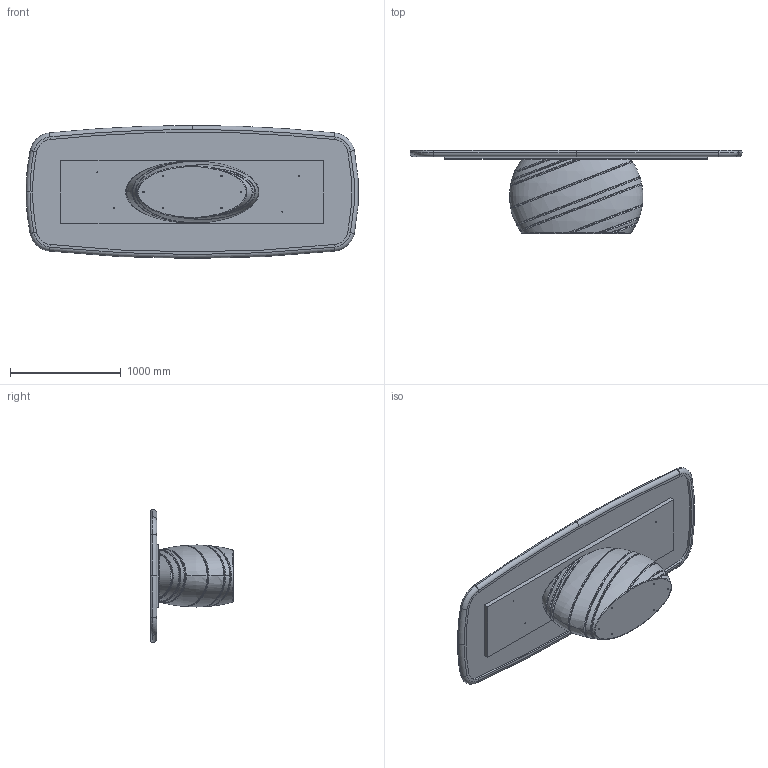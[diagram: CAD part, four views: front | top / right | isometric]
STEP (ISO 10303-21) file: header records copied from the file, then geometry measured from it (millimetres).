
FILE_DESCRIPTION (( 'STEP AP203' ), '1' );
FILE_NAME ('GI44K.STEP', '2025-04-22T14:20:20', ( '' ), ( '' ), 'SwSTEP 2.0', 'SolidWorks 2022', '' );
FILE_SCHEMA (( 'CONFIG_CONTROL_DESIGN' ));
Length unit declared in the file: millimetre
Products named in the file (3): GI44K; GIB000xxx-00-BASE GIOVE X 300; PIANI_modello 3D x web_King 300x120
Assembly tree (2 placements, depth 2):
  GI44K
    PIANI_modello 3D x web_King 300x120
    GIB000xxx-00-BASE GIOVE X 300
Bounding box: 2995.86 x 748 x 1200 mm (x, y, z)
Volume: 497144575.6 mm3; surface area: 19344814.6 mm2
Topology: 4 solids, 4 shells, 213 faces, 500 edges, 310 vertices
Faces by surface type: cylinder 65, bspline 53, plane 51, cone 24, torus 20
Entity records: 38737 total; most frequent: CARTESIAN_POINT 33851, ORIENTED_EDGE 1000, DIRECTION 893, EDGE_CURVE 500, AXIS2_PLACEMENT_3D 381, VERTEX_POINT 310, EDGE_LOOP 240, CIRCLE 216
